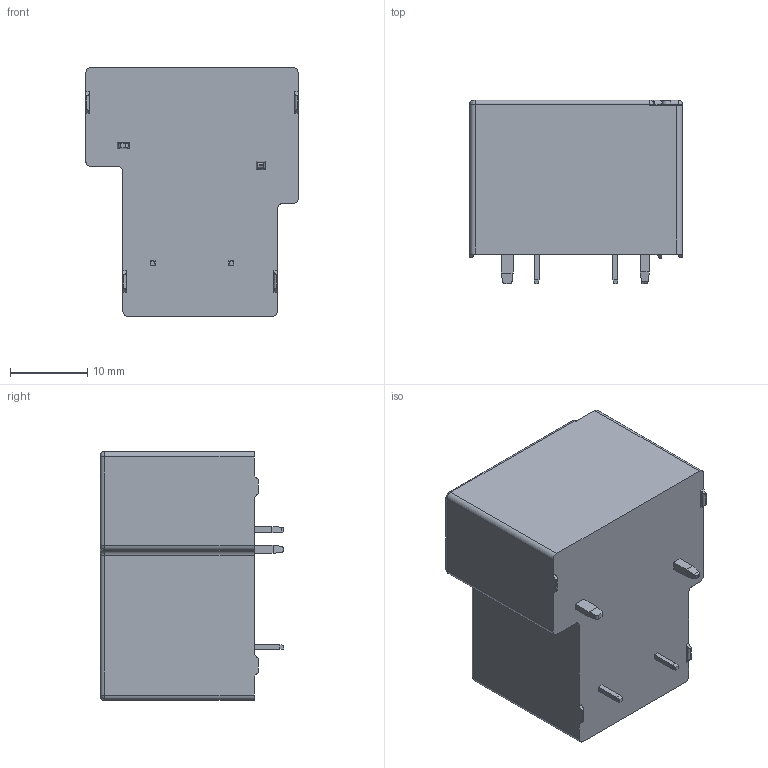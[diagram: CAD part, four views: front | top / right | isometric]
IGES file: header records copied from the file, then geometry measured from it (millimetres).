
Global section: file name: Filename.iges; native system: Open CASCADE 7.3; preprocessor: Open CASCADE IGES processor 7.3; date: 20200625.092254; units: millimetre
Bounding box: 27.5 x 23.7 x 32.2 mm (x, y, z)
Surface area: 4904.2 mm2 (no closed solid volume)
Topology: 0 solids, 0 shells, 236 faces, 1380 edges, 1338 vertices
Faces by surface type: revolution 135, plane 78, bspline 23
